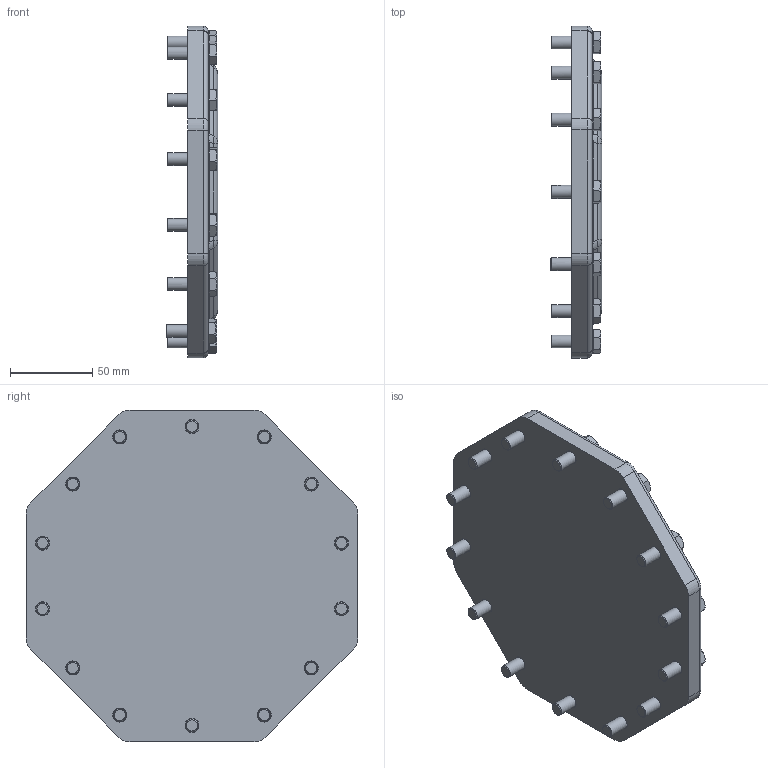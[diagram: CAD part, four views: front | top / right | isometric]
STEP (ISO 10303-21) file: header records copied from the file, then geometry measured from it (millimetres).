
FILE_DESCRIPTION(/* description */ (''),/* implementation_level */ '2;1');
FILE_NAME(/* name */ '2NSL-2MSL-2KSL-2JSL-2HSL.stp',/* time_stamp */ '2023-11-09T11:17:45+01:00',/* author */ (''),/* organization */ (''),/* preprocessor_version */ 'ST-DEVELOPER v19.3',/* originating_system */ 'SIEMENS PLM Software NX2212.3001',/* authorisation */ '');
FILE_SCHEMA (('AUTOMOTIVE_DESIGN { 1 0 10303 214 3 1 1 1 }'));
Length unit declared in the file: millimetre
Products named in the file (2): HOUSING-COVER-C1-WITH-14-SCRE; 2NSL-2MSL-2KSL-2JSL-2HSL
Assembly tree (1 placements, depth 2):
  2NSL-2MSL-2KSL-2JSL-2HSL
    HOUSING-COVER-C1-WITH-14-SCRE
Bounding box: 31.6 x 202 x 202 mm (x, y, z)
Volume: 555742.2 mm3; surface area: 84690.6 mm2
Topology: 1 solids, 1 shells, 361 faces, 861 edges, 550 vertices
Faces by surface type: plane 158, cone 98, cylinder 81, torus 8, bspline 8, sphere 8
Full cylindrical faces by diameter (mm): 7.794 x14, 8.5 x14, 11.6 x13
Entity records: 10228 total; most frequent: CARTESIAN_POINT 2275, DIRECTION 1602, ORIENTED_EDGE 1568, EDGE_CURVE 784, AXIS2_PLACEMENT_3D 631, VERTEX_POINT 536, EDGE_LOOP 472, ADVANCED_FACE 361
